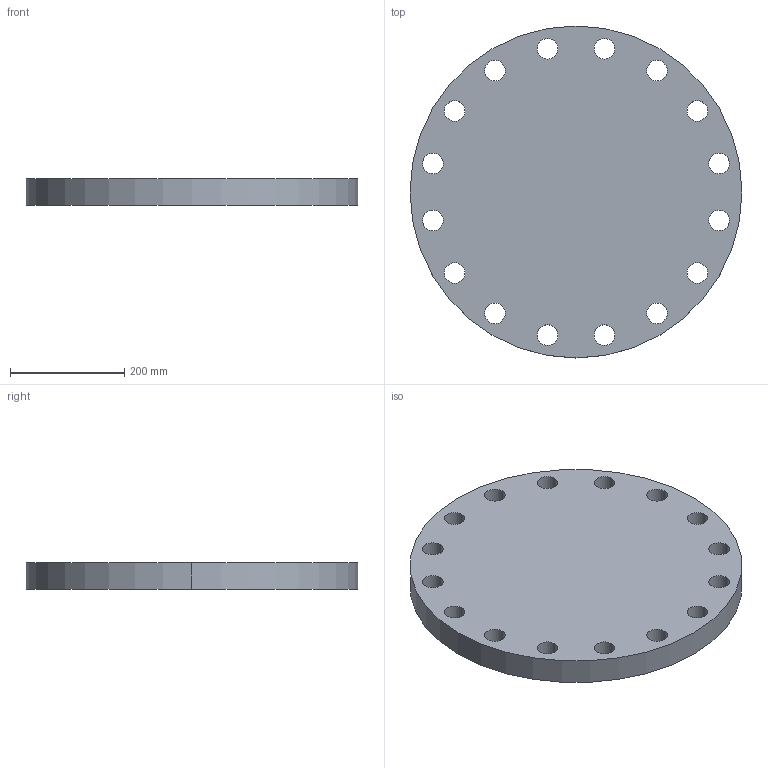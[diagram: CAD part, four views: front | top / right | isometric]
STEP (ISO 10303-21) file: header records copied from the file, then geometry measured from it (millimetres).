
FILE_DESCRIPTION (( 'STEP AP214' ), '1' );
FILE_NAME ('PN40 DN350 Type 05 - Type A Face.STEP', '2019-01-05T21:56:48', ( '' ), ( '' ), 'SwSTEP 2.0', 'SolidWorks 2019', '' );
FILE_SCHEMA (( 'AUTOMOTIVE_DESIGN' ));
Length unit declared in the file: millimetre
Products named in the file (1): PN40 DN350 Type 05 - Type A Face
Bounding box: 580 x 580 x 46 mm (x, y, z)
Volume: 11404408.6 mm3; surface area: 662901.2 mm2
Topology: 1 solids, 1 shells, 36 faces, 102 edges, 68 vertices
Faces by surface type: cylinder 34, plane 2
Entity records: 1312 total; most frequent: DIRECTION 244, CARTESIAN_POINT 207, ORIENTED_EDGE 204, AXIS2_PLACEMENT_3D 105, EDGE_CURVE 102, CIRCLE 68, VERTEX_POINT 68, EDGE_LOOP 68
